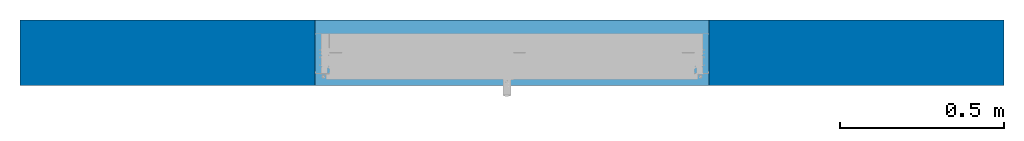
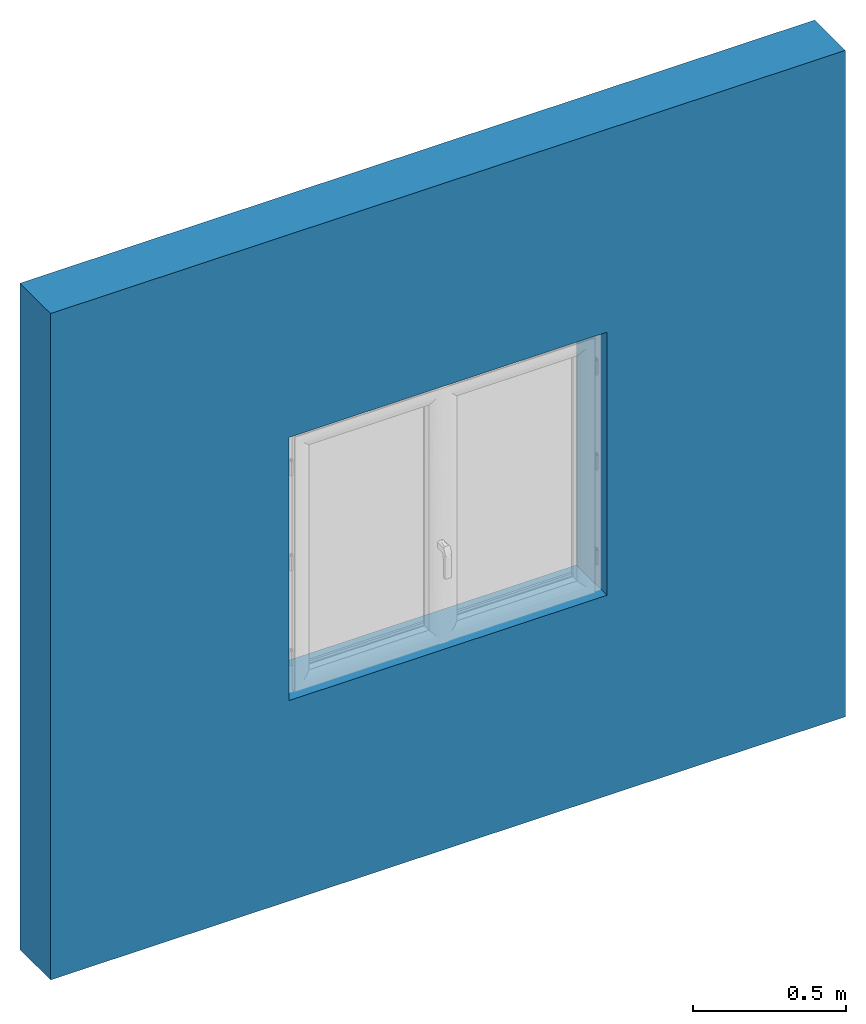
# One storey, incomplete: 1 wall, 1 opening.
"""IFC2X3 building model written with IfcOpenShell, lengths in millimetres."""

from ifc_helpers import new_model, entity, si_unit, converted_unit, frame, frame_2d, origin, place, context, project, spatial, rectangle, extrude, material, layer, layer_set, layer_usage, element, save


model = new_model("IFC2X3")

# Units and contexts
model_context = context("Model", 3, precision=1e-06, world=origin())
plan_context = context("Plan", 3, precision=1e-06, world=origin())
ifc_project = project(units=[si_unit("LENGTHUNIT", "METRE", prefix="MILLI"), si_unit("AREAUNIT", "SQUARE_METRE", prefix="MILLI"), si_unit("VOLUMEUNIT", "CUBIC_METRE", prefix="MILLI"), converted_unit("PLANEANGLEUNIT", "DEGREE", entity("IfcRatioMeasure", 0.01745329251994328), si_unit("PLANEANGLEUNIT", "RADIAN"), dimensions=[0, 0, 0, 0, 0, 0, 0]), si_unit("TIMEUNIT", "SECOND")], contexts=[model_context, plan_context])

# Site, building, storey
site_placement = place(None, origin())
site = spatial("IfcSite", under=ifc_project, at=site_placement, CompositionType="ELEMENT")
building_placement = place(site_placement, origin())
building = spatial("IfcBuilding", under=site, at=building_placement, CompositionType="ELEMENT")
storey_placement = place(building_placement, origin())
storey = spatial("IfcBuildingStorey", under=building, at=storey_placement, Name="Level 1", CompositionType="ELEMENT", Elevation=0.0)

# Wall, opening
ifc_material = material(Name="4ITR-20-4 argon inter TGI")
ifc_layer = layer(ifc_material, 200.0)
ifc_layer_set = layer_set([ifc_layer], Name="Wall 1")
ifc_layer_usage = layer_usage(ifc_layer_set, "AXIS2", "NEGATIVE", 100.0)
wall_placement = place(storey_placement, frame((1395.451581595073, 5189.442287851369, 0.0)))
wall = element("IfcWallStandardCase", 1, at=wall_placement, inside=storey, material=ifc_layer_usage, Name="Wall 1", ObjectType="Wall 1:1320", context=model_context, shape_type="SweptSolid", body=[
    extrude(rectangle(XDim=3000.0, YDim=200.0, at=frame_2d((1500.0, 0.0), x_axis=(-1.0, 0.0))), origin(), (0.0, 0.0, 1.0), 2659.655034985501),
])
opening_placement = place(wall_placement, frame((2100.0, 100.0, 800.0)))
element("IfcOpeningElement", 2, at=opening_placement, cuts=wall, Name="Huet Fen¨ºtre 2 vantaux Stylium:Fen¨ºtre 2 vantaux 1050 x 1200 mm Claire:Fen¨ºtre 2 vantaux 1050 x 1200 mm Claire:1", ObjectType="Opening", context=model_context, shape_type="SweptSolid", body=[
    extrude(rectangle(XDim=1049.999999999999, YDim=1200.0, at=frame_2d((525.0, 600.0), x_axis=(1.0, 0.0))), frame((0.0, 0.0, 0.0), z_axis=(0.0, -1.0, 0.0), x_axis=(0.0, 0.0, 1.0)), (0.0, 0.0, 1.0), 200.0),
])

save(model, "model.ifc")
